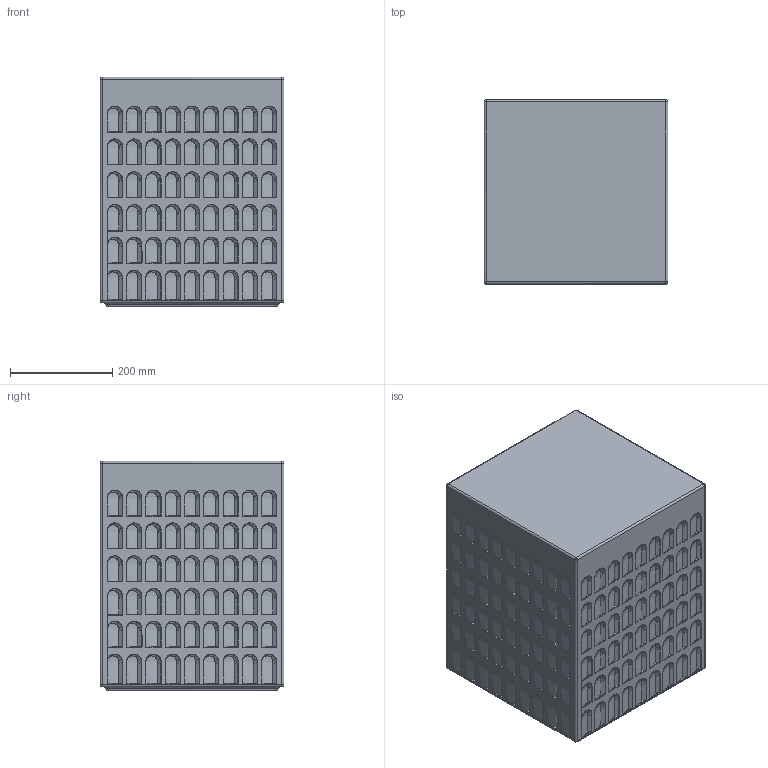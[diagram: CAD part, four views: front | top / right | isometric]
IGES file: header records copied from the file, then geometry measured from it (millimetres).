
Global section: file name: Eur_3d_Fabio Novembre_Kartell; native system: Unknown; preprocessor: BodyObjectToATFToIges; author: Autodesk 3ds Max; organization: Autodesk; date: 20180210.013307; units: centimetre
Bounding box: 360 x 360 x 450 mm (x, y, z)
Surface area: 932729.3 mm2 (no closed solid volume)
Topology: 0 solids, 0 shells, 3895 faces, 40123 edges, 40066 vertices
Faces by surface type: bspline 3671, revolution 224
